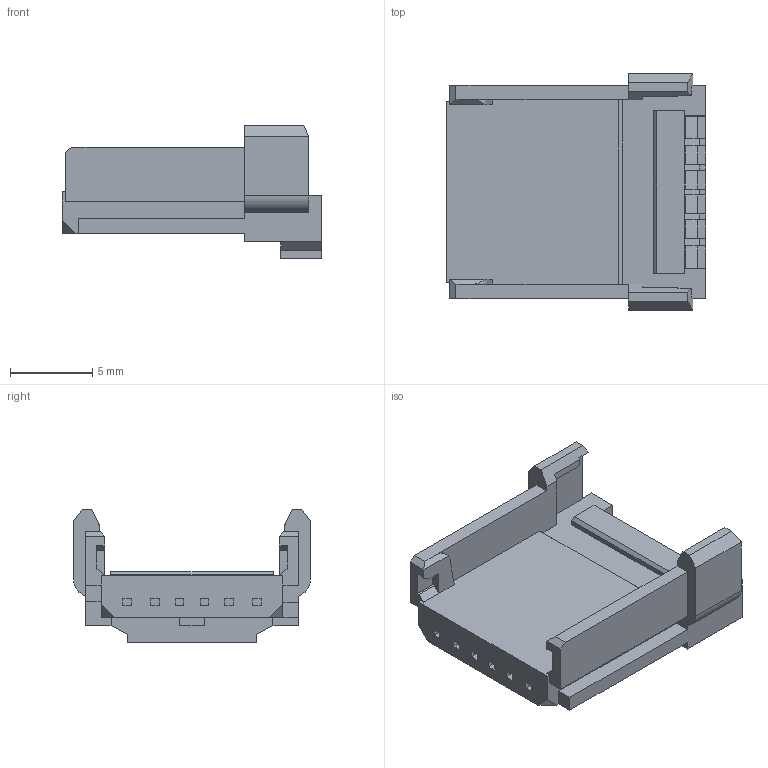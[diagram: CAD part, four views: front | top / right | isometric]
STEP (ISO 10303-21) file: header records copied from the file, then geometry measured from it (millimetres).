
FILE_DESCRIPTION(('CATIA V5 STEP','CAx-IF Rec.Pracs.--- Model Styling and Organization---1.5--- 2016-08-15','CAx-IF Rec.Pracs.---Supplemental Geometry---1.0---2011-11-01','CAx-IF Rec.Pracs.--- Composite Materials ---1.1---2010-07-15'),'2;1');
FILE_NAME('C:\Users\0120140016\Desktop\カタログ3D\12WAY\6099-0064(HE020-12F-L-LGR).stp','2024-09-25T03:25:41+00:00',('none'),('none'),'CATIA Version 5-6 Release 2022 SP2 HF23','CATIA V5 STEP AP214 v2','none');
FILE_SCHEMA(('AUTOMOTIVE_DESIGN { 1 0 10303 214 1 1 1 1 }'));
Length unit declared in the file: millimetre
Products named in the file (1): UJA164_12F_Lower_HSG_2
Bounding box: 15.8 x 14.4 x 8.07 mm (x, y, z)
Volume: 584 mm3; surface area: 905 mm2
Topology: 1 solids, 1 shells, 181 faces, 507 edges, 334 vertices
Faces by surface type: plane 177, cylinder 4
Entity records: 5381 total; most frequent: ORIENTED_EDGE 1014, CARTESIAN_POINT 976, DIRECTION 730, EDGE_CURVE 507, VECTOR 488, LINE 488, VERTEX_POINT 334, EDGE_LOOP 187
